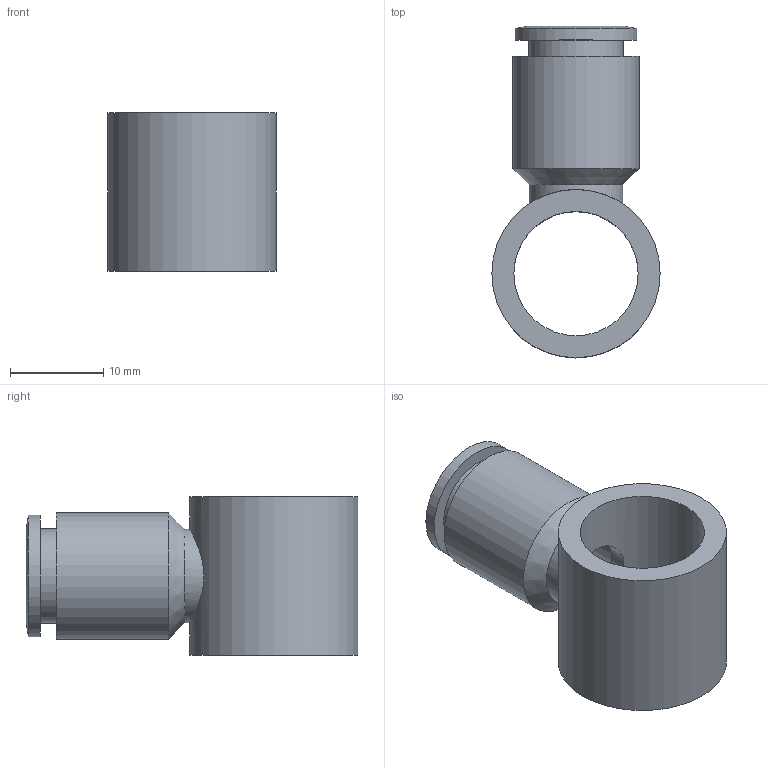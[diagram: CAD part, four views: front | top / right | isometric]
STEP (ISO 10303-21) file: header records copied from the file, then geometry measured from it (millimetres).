
FILE_DESCRIPTION((''),'2;1');
FILE_NAME('C:\Documents and Settings\rivolro1\Documenti\copia di Raccordi\PLASTICA\T13XXXX\T130814.stp','2007-10-30T17:37:15',('Rivolro1'),(''),'Autodesk Inventor 2008','Autodesk Inventor 2008','');
FILE_SCHEMA(('AUTOMOTIVE_DESIGN { 1 0 10303 214 1 1 1 1 }'));
Length unit declared in the file: millimetre
Products named in the file (1): T130814
Bounding box: 18 x 35.5 x 17 mm (x, y, z)
Volume: 3244.1 mm3; surface area: 3265.9 mm2
Topology: 1 solids, 1 shells, 16 faces, 27 edges, 17 vertices
Faces by surface type: cylinder 6, plane 5, bspline 3, cone 2
Full cylindrical faces by diameter (mm): 10 x1, 10.1 x1, 13 x1, 13.3 x1, 13.5 x1, 18 x1
Entity records: 546 total; most frequent: CARTESIAN_POINT 229, DIRECTION 58, ORIENTED_EDGE 34, EDGE_LOOP 34, AXIS2_PLACEMENT_3D 29, FACE_BOUND 18, VERTEX_POINT 17, EDGE_CURVE 17
